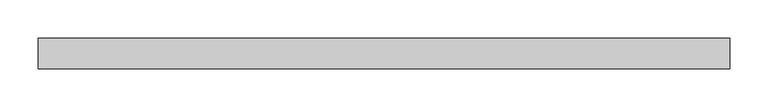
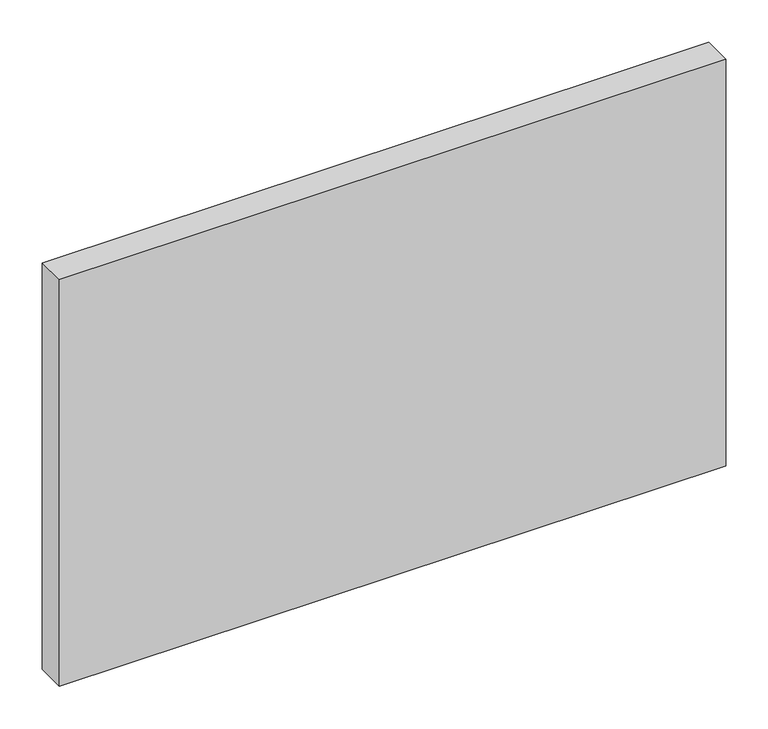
"""IFC4 building model written with IfcOpenShell, lengths in millimetres: plate geometry, Panneau système vide : Epaiss. 4cm."""

from ifc_helpers import new_model, si_unit, origin, origin_with_axes, place, context, project, spatial, polyline, outline, extrude, source, transform, mapped, element, save


def plate_1f419c5e(model_context):
    return source(origin(), model_context, "Body", "SweptSolid", [
        extrude(outline(polyline([(453.0, -20.0), (-453.0, -20.0), (-453.0, 20.0), (453.0, 20.0), (453.0, -20.0)])), origin_with_axes(), (0.0, 0.0, 1.0), 585.0106998),
    ])


if __name__ == "__main__":
    model = new_model("IFC4")
    model_context = context("Model", 3, world=origin())
    ifc_project = project(units=[si_unit("LENGTHUNIT", "METRE", prefix="MILLI")], contexts=[model_context])
    site = spatial("IfcSite", under=ifc_project)
    building = spatial("IfcBuilding", under=site)
    placement = place(None, origin())
    plate_shape = plate_1f419c5e(model_context)
    element("IfcPlate", 1, ObjectType="Panneau système vide : Epaiss. 4cm", at=placement, inside=building, context=model_context, shape_type="MappedRepresentation", body=[
        mapped(plate_shape, transform((0.0, 0.0, 0.0), x_axis=(1.0, 0.0, 0.0), y_axis=(0.0, 1.0, 0.0), z_axis=(0.0, 0.0, 1.0))),
    ])
    save(model, "model.ifc")
